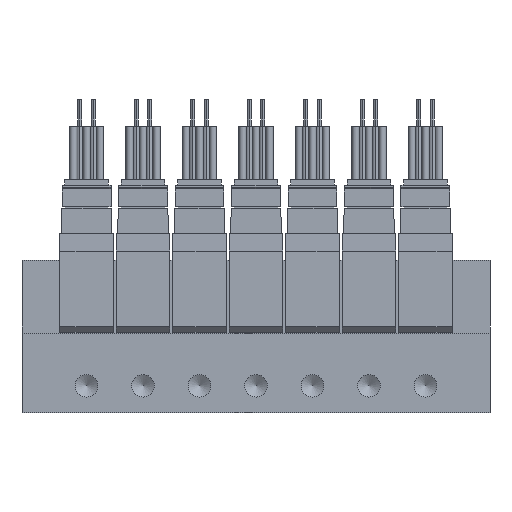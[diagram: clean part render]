
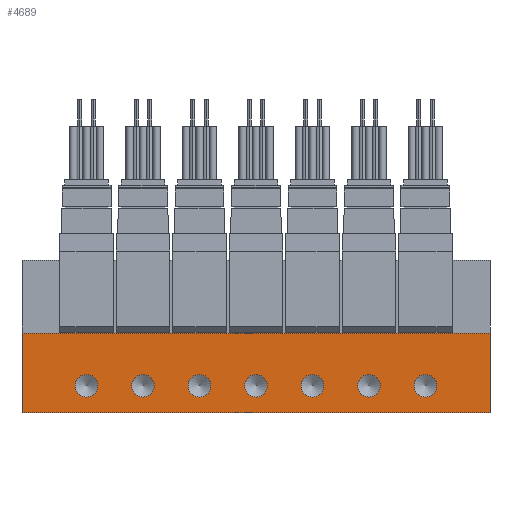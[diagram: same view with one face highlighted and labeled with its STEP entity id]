
A CAD part, front view. The second image highlights one B-rep face of the part: STEP entity #4689.
In plain terms, the highlighted planar face has unit normal (0, -1, 0).
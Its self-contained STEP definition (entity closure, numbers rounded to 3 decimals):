
#4689=ADVANCED_FACE('',(#7527,#7528,#7529,#7530,#7531,#7532,#7533,#7534),#7535,.F.);
#7527=FACE_BOUND('',#13444,.T.);
#7528=FACE_BOUND('',#13445,.T.);
#7529=FACE_BOUND('',#13446,.T.);
#7530=FACE_BOUND('',#13447,.T.);
#7531=FACE_BOUND('',#13448,.T.);
#7532=FACE_BOUND('',#13449,.T.);
#7533=FACE_BOUND('',#13450,.T.);
#7534=FACE_OUTER_BOUND('',#13451,.T.);
#7535=PLANE('',#13452);
#13444=EDGE_LOOP('',(#20929));
#13445=EDGE_LOOP('',(#20930));
#13446=EDGE_LOOP('',(#20931));
#13447=EDGE_LOOP('',(#20932));
#13448=EDGE_LOOP('',(#20933));
#13449=EDGE_LOOP('',(#20934));
#13450=EDGE_LOOP('',(#20935));
#13451=EDGE_LOOP('',(#20936,#20937,#20938,#20939));
#13452=AXIS2_PLACEMENT_3D('',#20940,#20941,#20942);
#20929=ORIENTED_EDGE('',*,*,#43463,.F.);
#20930=ORIENTED_EDGE('',*,*,#43489,.F.);
#20931=ORIENTED_EDGE('',*,*,#43490,.F.);
#20932=ORIENTED_EDGE('',*,*,#43491,.F.);
#20933=ORIENTED_EDGE('',*,*,#43492,.F.);
#20934=ORIENTED_EDGE('',*,*,#43493,.F.);
#20935=ORIENTED_EDGE('',*,*,#43494,.F.);
#20936=ORIENTED_EDGE('',*,*,#43495,.F.);
#20937=ORIENTED_EDGE('',*,*,#43496,.F.);
#20938=ORIENTED_EDGE('',*,*,#43497,.T.);
#20939=ORIENTED_EDGE('',*,*,#43487,.T.);
#20940=CARTESIAN_POINT('',(-87.0,0.,14.8));
#20941=DIRECTION('',(0.0,1.0,0.));
#20942=DIRECTION('',(0.0,0.,1.0));
#43463=EDGE_CURVE('',#50774,#50774,#50775,.T.);
#43487=EDGE_CURVE('',#50819,#50817,#50820,.T.);
#43489=EDGE_CURVE('',#50822,#50822,#50823,.T.);
#43490=EDGE_CURVE('',#50824,#50824,#50825,.T.);
#43491=EDGE_CURVE('',#50826,#50826,#50827,.T.);
#43492=EDGE_CURVE('',#50828,#50828,#50829,.T.);
#43493=EDGE_CURVE('',#50830,#50830,#50831,.T.);
#43494=EDGE_CURVE('',#50832,#50832,#50833,.T.);
#43495=EDGE_CURVE('',#50834,#50817,#50835,.T.);
#43496=EDGE_CURVE('',#50836,#50834,#50837,.T.);
#43497=EDGE_CURVE('',#50836,#50819,#50838,.T.);
#50774=VERTEX_POINT('',#63151);
#50775=CIRCLE('',#63152,2.1);
#50817=VERTEX_POINT('',#63207);
#50819=VERTEX_POINT('',#63210);
#50820=LINE('',#63211,#63212);
#50822=VERTEX_POINT('',#63215);
#50823=CIRCLE('',#63216,2.1);
#50824=VERTEX_POINT('',#63217);
#50825=CIRCLE('',#63218,2.1);
#50826=VERTEX_POINT('',#63219);
#50827=CIRCLE('',#63220,2.1);
#50828=VERTEX_POINT('',#63221);
#50829=CIRCLE('',#63222,2.1);
#50830=VERTEX_POINT('',#63223);
#50831=CIRCLE('',#63224,2.1);
#50832=VERTEX_POINT('',#63225);
#50833=CIRCLE('',#63226,2.1);
#50834=VERTEX_POINT('',#63227);
#50835=LINE('',#63228,#63229);
#50836=VERTEX_POINT('',#63230);
#50837=LINE('',#63231,#63232);
#50838=LINE('',#63233,#63234);
#63151=CARTESIAN_POINT('',(-75.0,0.,2.9));
#63152=AXIS2_PLACEMENT_3D('',#80864,#80865,#80866);
#63207=CARTESIAN_POINT('',(0.0,0.0,0.0));
#63210=CARTESIAN_POINT('',(-87.0,0.0,0.0));
#63211=CARTESIAN_POINT('',(-87.0,0.0,0.0));
#63212=VECTOR('',#80908,1.0);
#63215=CARTESIAN_POINT('',(-64.5,0.,2.9));
#63216=AXIS2_PLACEMENT_3D('',#80910,#80911,#80912);
#63217=CARTESIAN_POINT('',(-54.0,0.,2.9));
#63218=AXIS2_PLACEMENT_3D('',#80913,#80914,#80915);
#63219=CARTESIAN_POINT('',(-43.5,0.,2.9));
#63220=AXIS2_PLACEMENT_3D('',#80916,#80917,#80918);
#63221=CARTESIAN_POINT('',(-33.0,0.,2.9));
#63222=AXIS2_PLACEMENT_3D('',#80919,#80920,#80921);
#63223=CARTESIAN_POINT('',(-22.5,0.,2.9));
#63224=AXIS2_PLACEMENT_3D('',#80922,#80923,#80924);
#63225=CARTESIAN_POINT('',(-12.0,0.,2.9));
#63226=AXIS2_PLACEMENT_3D('',#80925,#80926,#80927);
#63227=CARTESIAN_POINT('',(0.0,0.,14.8));
#63228=CARTESIAN_POINT('',(0.0,0.,14.8));
#63229=VECTOR('',#80928,1.0);
#63230=CARTESIAN_POINT('',(-87.0,0.,14.8));
#63231=CARTESIAN_POINT('',(-87.0,0.,14.8));
#63232=VECTOR('',#80929,1.0);
#63233=CARTESIAN_POINT('',(-87.0,0.,14.8));
#63234=VECTOR('',#80930,1.0);
#80864=CARTESIAN_POINT('',(-75.0,0.0,5.0));
#80865=DIRECTION('',(0.0,-1.0,0.));
#80866=DIRECTION('',(0.0,0.,-1.0));
#80908=DIRECTION('',(1.0,0.0,0.0));
#80910=CARTESIAN_POINT('',(-64.5,0.0,5.0));
#80911=DIRECTION('',(0.0,-1.0,0.));
#80912=DIRECTION('',(0.0,0.,-1.0));
#80913=CARTESIAN_POINT('',(-54.0,0.0,5.0));
#80914=DIRECTION('',(0.0,-1.0,0.));
#80915=DIRECTION('',(0.0,0.,-1.0));
#80916=CARTESIAN_POINT('',(-43.5,0.0,5.0));
#80917=DIRECTION('',(0.0,-1.0,0.));
#80918=DIRECTION('',(0.0,0.,-1.0));
#80919=CARTESIAN_POINT('',(-33.0,0.0,5.0));
#80920=DIRECTION('',(0.0,-1.0,0.));
#80921=DIRECTION('',(0.0,0.,-1.0));
#80922=CARTESIAN_POINT('',(-22.5,0.0,5.0));
#80923=DIRECTION('',(0.0,-1.0,0.));
#80924=DIRECTION('',(0.0,0.,-1.0));
#80925=CARTESIAN_POINT('',(-12.0,0.0,5.0));
#80926=DIRECTION('',(0.0,-1.0,0.));
#80927=DIRECTION('',(0.0,0.,-1.0));
#80928=DIRECTION('',(0.0,0.,-1.0));
#80929=DIRECTION('',(1.0,0.0,0.0));
#80930=DIRECTION('',(0.0,0.,-1.0));
